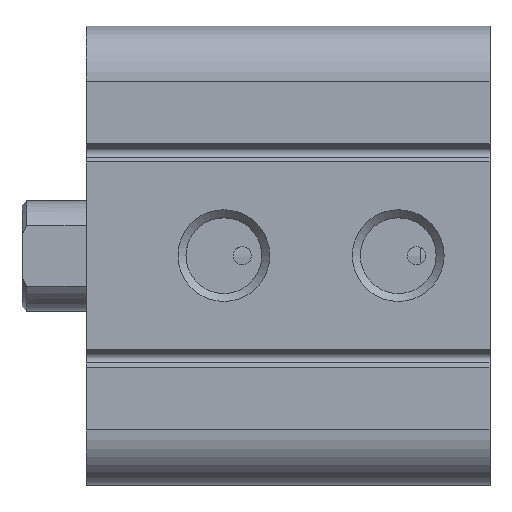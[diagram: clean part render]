
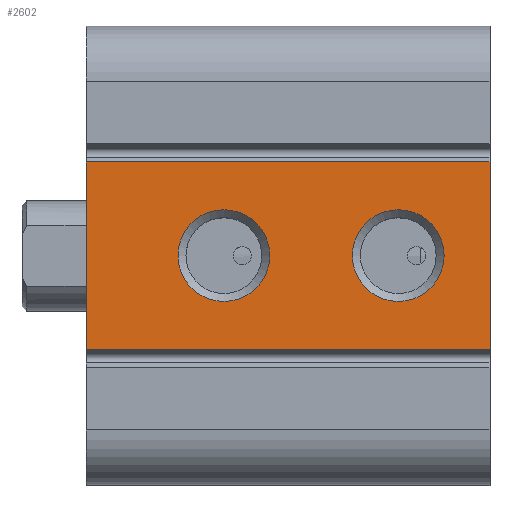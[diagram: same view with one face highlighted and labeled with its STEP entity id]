
A CAD part, top view. The second image highlights one B-rep face of the part: STEP entity #2602.
In plain terms, the highlighted planar face has unit normal (0, 0, 1) as drawn and (0, 1, 0) by its records, which use the part's own axes.
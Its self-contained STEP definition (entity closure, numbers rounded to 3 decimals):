
#86=LINE('',#4233,#268);
#88=LINE('',#4237,#270);
#89=LINE('',#4239,#271);
#90=LINE('',#4240,#272);
#268=VECTOR('',#3382,22.);
#270=VECTOR('',#3386,10.2);
#271=VECTOR('',#3387,22.);
#272=VECTOR('',#3388,10.2);
#547=FACE_BOUND('',#874,.T.);
#548=FACE_BOUND('',#875,.T.);
#650=FACE_OUTER_BOUND('',#873,.T.);
#873=EDGE_LOOP('',(#1971,#1972,#1973,#1974));
#874=EDGE_LOOP('',(#1975));
#875=EDGE_LOOP('',(#1976));
#1020=CIRCLE('',#2734,2.5);
#1024=CIRCLE('',#2742,2.5);
#1182=VERTEX_POINT('',#4019);
#1186=VERTEX_POINT('',#4031);
#1249=VERTEX_POINT('',#4230);
#1250=VERTEX_POINT('',#4232);
#1251=VERTEX_POINT('',#4236);
#1252=VERTEX_POINT('',#4238);
#1445=EDGE_CURVE('',#1182,#1182,#1020,.T.);
#1449=EDGE_CURVE('',#1186,#1186,#1024,.T.);
#1525=EDGE_CURVE('',#1250,#1249,#86,.T.);
#1527=EDGE_CURVE('',#1249,#1251,#88,.T.);
#1528=EDGE_CURVE('',#1252,#1251,#89,.T.);
#1529=EDGE_CURVE('',#1252,#1250,#90,.T.);
#1971=ORIENTED_EDGE('',*,*,#1527,.T.);
#1972=ORIENTED_EDGE('',*,*,#1528,.F.);
#1973=ORIENTED_EDGE('',*,*,#1529,.T.);
#1974=ORIENTED_EDGE('',*,*,#1525,.T.);
#1975=ORIENTED_EDGE('',*,*,#1445,.T.);
#1976=ORIENTED_EDGE('',*,*,#1449,.T.);
#2475=PLANE('',#2859);
#2602=ADVANCED_FACE('',(#650,#547,#548),#2475,.T.);
#2734=AXIS2_PLACEMENT_3D('',#4020,#3112,#3113);
#2742=AXIS2_PLACEMENT_3D('',#4032,#3128,#3129);
#2859=AXIS2_PLACEMENT_3D('',#4235,#3384,#3385);
#3112=DIRECTION('center_axis',(0.,-1.,0.));
#3113=DIRECTION('ref_axis',(1.,0.,0.));
#3128=DIRECTION('center_axis',(0.,-1.,0.));
#3129=DIRECTION('ref_axis',(1.,0.,0.));
#3382=DIRECTION('',(1.,0.,0.));
#3384=DIRECTION('center_axis',(0.,1.,0.));
#3385=DIRECTION('ref_axis',(0.,0.,1.));
#3386=DIRECTION('',(0.,0.,-1.));
#3387=DIRECTION('',(1.,0.,0.));
#3388=DIRECTION('',(0.,0.,1.));
#4019=CARTESIAN_POINT('',(19.5,12.5,0.));
#4020=CARTESIAN_POINT('Origin',(17.,12.5,0.));
#4031=CARTESIAN_POINT('',(10.,12.5,0.));
#4032=CARTESIAN_POINT('Origin',(7.5,12.5,0.));
#4230=CARTESIAN_POINT('',(22.,12.5,5.1));
#4232=CARTESIAN_POINT('',(0.,12.5,5.1));
#4233=CARTESIAN_POINT('',(0.,12.5,5.1));
#4235=CARTESIAN_POINT('Origin',(0.,12.5,5.1));
#4236=CARTESIAN_POINT('',(22.,12.5,-5.1));
#4237=CARTESIAN_POINT('',(22.,12.5,-5.1));
#4238=CARTESIAN_POINT('',(0.,12.5,-5.1));
#4239=CARTESIAN_POINT('',(0.,12.5,-5.1));
#4240=CARTESIAN_POINT('',(0.,12.5,-5.1));
